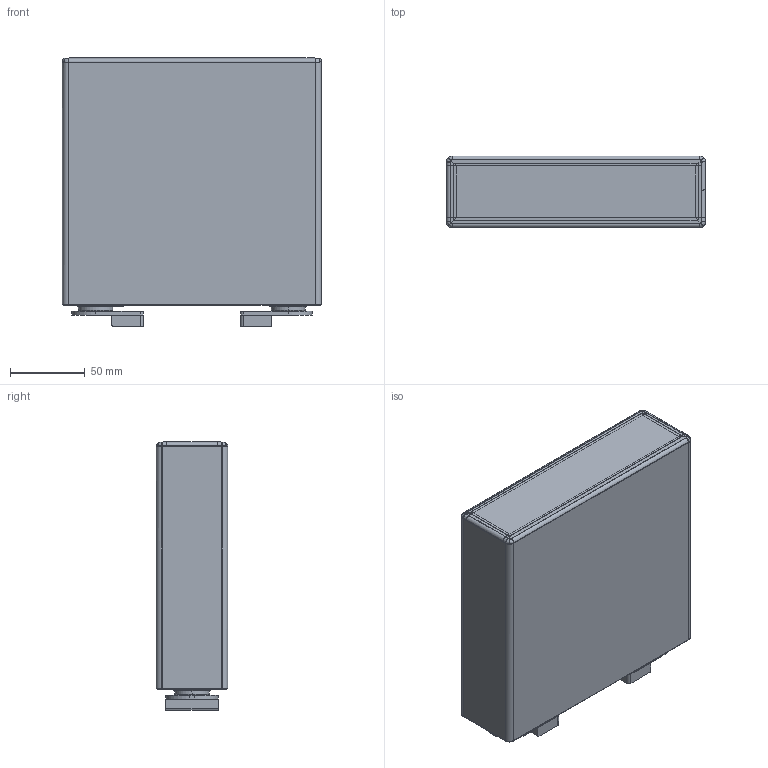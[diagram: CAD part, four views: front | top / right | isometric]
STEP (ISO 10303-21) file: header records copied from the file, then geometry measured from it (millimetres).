
FILE_DESCRIPTION((''),'2;1');
FILE_NAME('ASM0268_ASM','2019-11-22T',('Eco Power'),(''),'PRO/ENGINEER BY PARAMETRIC TECHNOLOGY CORPORATION, 2013050','PRO/ENGINEER BY PARAMETRIC TECHNOLOGY CORPORATION, 2013050','');
FILE_SCHEMA(('CONFIG_CONTROL_DESIGN'));
Length unit declared in the file: millimetre
Products named in the file (15): MANIFOLD_SOLID_BREP_4083; MANIFOLD_SOLID_BREP_5337; MANIFOLD_SOLID_BREP_5627; 120AH-CELL-M4-20170220_1_ASM; ASM0051_ASM_1_ASM; 240AH; 240AH_1; ASM0269_ASM; LFP_ASM; PRT0774; 240AH_1_1; ASM0267_ASM_1_ASM; LFP_ASM_1_ASM; LFP__ASM; ASM0268_ASM
Assembly tree (14 placements, depth 5):
  ASM0268_ASM
    ASM0051_ASM_1_ASM
      120AH-CELL-M4-20170220_1_ASM
        MANIFOLD_SOLID_BREP_4083
        MANIFOLD_SOLID_BREP_5337
        MANIFOLD_SOLID_BREP_5627
    LFP_ASM
      ASM0269_ASM
        240AH
        240AH_1
    LFP__ASM
      LFP_ASM_1_ASM
        ASM0267_ASM_1_ASM
          PRT0774
          240AH_1_1
Bounding box: 173.9 x 48 x 180.3 mm (x, y, z)
Volume: 109874.3 mm3; surface area: 363468 mm2
Topology: 7 solids, 8 shells, 406 faces, 1040 edges, 656 vertices
Faces by surface type: plane 169, cylinder 157, cone 38, torus 22, bspline 20
Entity records: 13149 total; most frequent: CARTESIAN_POINT 2680, DIRECTION 2281, ORIENTED_EDGE 2058, EDGE_CURVE 1036, AXIS2_PLACEMENT_3D 865, VERTEX_POINT 656, VECTOR 551, LINE 551
